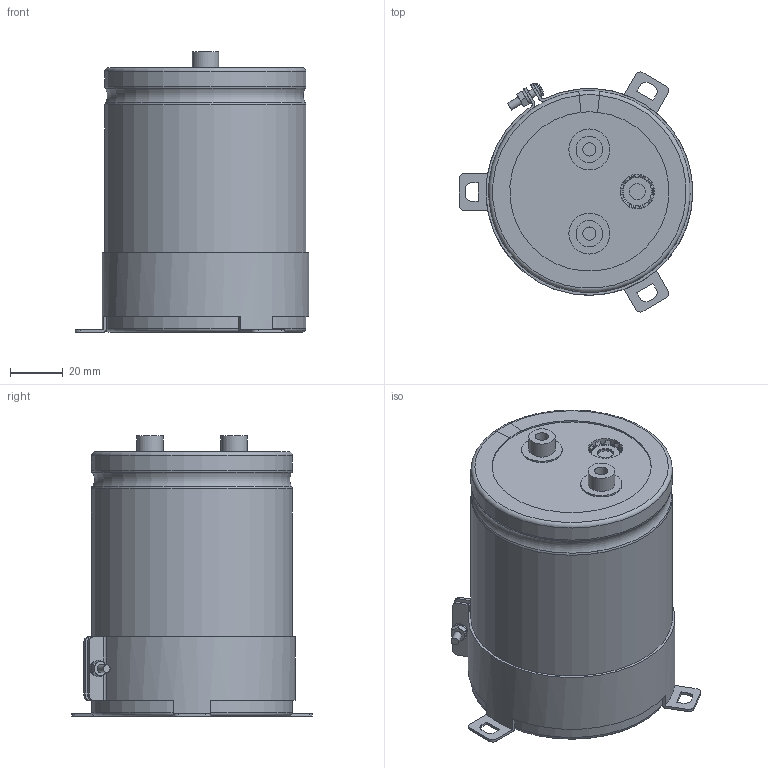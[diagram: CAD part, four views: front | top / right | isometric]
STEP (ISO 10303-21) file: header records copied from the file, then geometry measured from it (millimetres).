
FILE_DESCRIPTION(/* description */ (''),/* implementation_level */ '2;1');
FILE_NAME(/* name */ '76.2x100_Screw.stp',/* time_stamp */ '2017-09-17T13:21:28+09:00',/* author */ (''),/* organization */ (''),/* preprocessor_version */ 'ST-DEVELOPER v16',/* originating_system */ 'SIEMENS PLM Software NX 11.0',/* authorisation */ '');
FILE_SCHEMA (('AUTOMOTIVE_DESIGN { 1 0 10303 214 3 1 1 1 }'));
Length unit declared in the file: millimetre
Products named in the file (1): 76.2x100_Screw
Bounding box: 88.3 x 90.75 x 106 mm (x, y, z)
Volume: 458423.3 mm3; surface area: 102003.1 mm2
Topology: 9 solids, 9 shells, 259 faces, 642 edges, 413 vertices
Faces by surface type: plane 112, cylinder 66, torus 49, cone 31, sphere 1
Full cylindrical faces by diameter (mm): 3 x5, 5 x2, 5.5 x2, 6 x4, 8 x1, 10 x2, 13 x2, 15.5 x2, 75 x2
Entity records: 8534 total; most frequent: CARTESIAN_POINT 2182, DIRECTION 1296, ORIENTED_EDGE 1214, EDGE_CURVE 607, AXIS2_PLACEMENT_3D 541, VERTEX_POINT 408, EDGE_LOOP 317, CIRCLE 281
